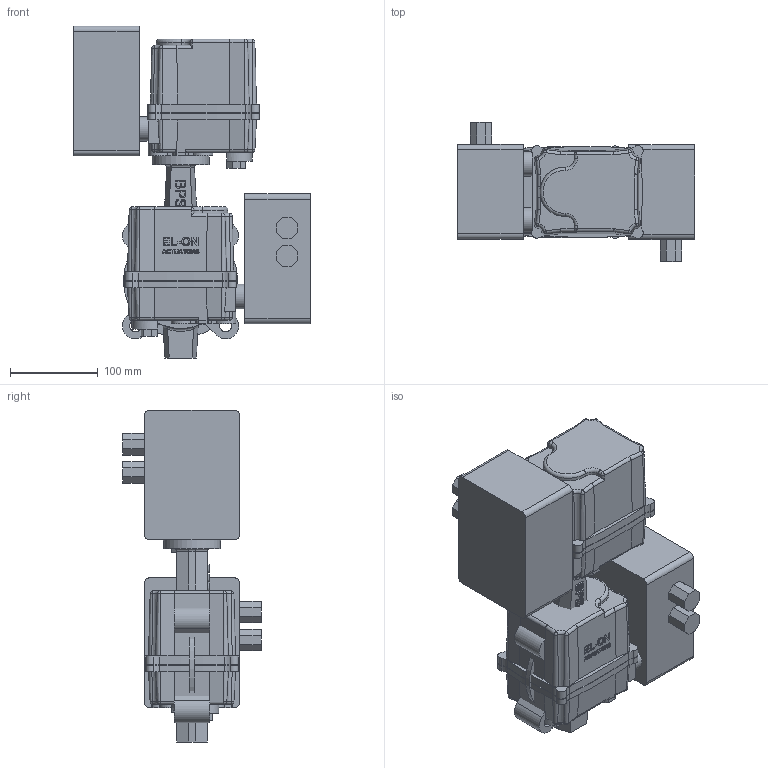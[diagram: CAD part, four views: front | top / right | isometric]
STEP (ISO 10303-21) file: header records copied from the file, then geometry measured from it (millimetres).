
FILE_DESCRIPTION( ( 'Unknown' ), '1' );
FILE_NAME( 'C:/Documents and Settings/aivar/Desktop/BPS 2313065ER butterfly valve DN65.stp', 'Unknown', ( 'Unknown' ), ( 'Unknown' ), 'PSStep 10.1', 'Unknown', ' ' );
FILE_SCHEMA( ( 'AUTOMOTIVE_DESIGN { 1 0 10303 214 1 1 1 1 }' ) );
Length unit declared in the file: millimetre
Products named in the file (4): Assem1; BPS 8010058 electric actuator DN40-100; Butterfly valve lug type DN65 PN10-16 BPS
Bounding box: 270 x 158 x 378 mm (x, y, z)
Volume: 6581362.9 mm3; surface area: 554402.6 mm2
Topology: 6 solids, 6 shells, 1170 faces, 3120 edges, 2026 vertices
Faces by surface type: plane 394, cylinder 304, extrusion 278, cone 84, bspline 72, torus 38
Full cylindrical faces by diameter (mm): 4.134 x16, 4.917 x8, 6.647 x8, 7 x8, 13.835 x8, 28 x4, 65 x4, 95 x4, 109 x4
Entity records: 30530 total; most frequent: CARTESIAN_POINT 12013, ORIENTED_EDGE 2904, DIRECTION 2536, EDGE_CURVE 1452, VERTEX_POINT 985, VECTOR 904, AXIS2_PLACEMENT_3D 816, LINE 765
